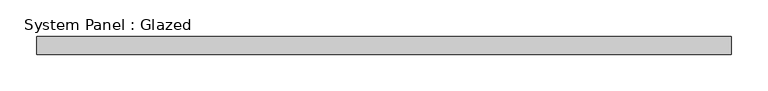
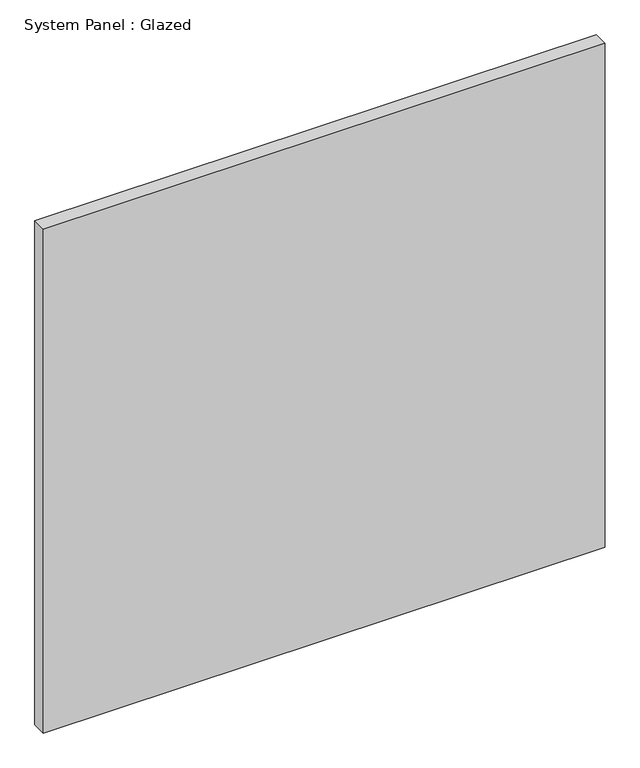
"""IFC4 building model written with IfcOpenShell, lengths in millimetres: plate geometry, System Panel : Glazed."""

from ifc_helpers import new_model, si_unit, origin, origin_with_axes, place, context, project, spatial, polyline, outline, extrude, source, transform, mapped, element, save


def system_panel_glazed_26af59c9(model_context):
    return source(origin(), model_context, "Body", "SweptSolid", [
        extrude(outline(polyline([(475.8881596, 24.5), (-475.8881596, 24.5), (-475.8881596, 49.5), (475.8881596, 49.5), (475.8881596, 24.5)])), origin_with_axes(), (0.0, 0.0, 1.0), 902.3119055),
    ])


if __name__ == "__main__":
    model = new_model("IFC4")
    model_context = context("Model", 3, world=origin())
    ifc_project = project(units=[si_unit("LENGTHUNIT", "METRE", prefix="MILLI")], contexts=[model_context])
    site = spatial("IfcSite", under=ifc_project)
    building = spatial("IfcBuilding", under=site)
    placement = place(None, origin())
    system_panel_glazed_shape = system_panel_glazed_26af59c9(model_context)
    element("IfcPlate", 1, ObjectType="System Panel : Glazed", at=placement, inside=building, context=model_context, shape_type="MappedRepresentation", body=[
        mapped(system_panel_glazed_shape, transform((0.0, 0.0, 0.0), x_axis=(1.0, 0.0, 0.0), y_axis=(0.0, 1.0, 0.0), z_axis=(0.0, 0.0, 1.0))),
    ])
    save(model, "model.ifc")
